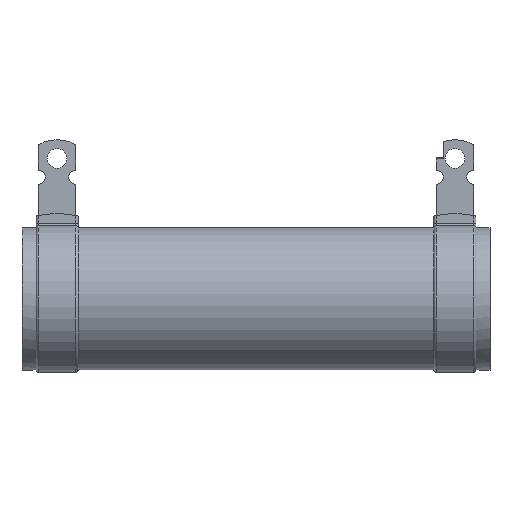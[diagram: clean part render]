
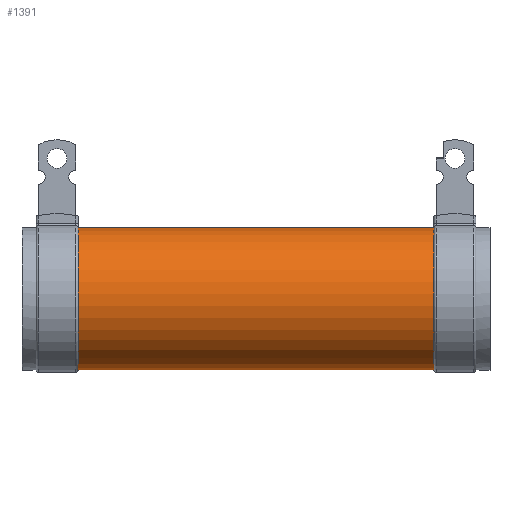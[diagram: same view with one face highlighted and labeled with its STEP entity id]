
A CAD part, left-side view. The second image highlights one B-rep face of the part: STEP entity #1391.
In plain terms, the highlighted cylindrical face has radius 15.25 mm (diameter 30.5 mm), a full revolution.
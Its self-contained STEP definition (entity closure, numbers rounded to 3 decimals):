
#42=FACE_BOUND($,#306,.T.);
#72=CYLINDRICAL_SURFACE($,#1529,15.25);
#133=CIRCLE($,#1514,15.25);
#137=CIRCLE($,#1528,15.25);
#138=CIRCLE($,#1530,15.25);
#139=CIRCLE($,#1531,15.25);
#218=FACE_OUTER_BOUND($,#305,.T.);
#305=EDGE_LOOP($,(#1091,#1092));
#306=EDGE_LOOP($,(#1093,#1094));
#603=VERTEX_POINT($,#2227);
#612=VERTEX_POINT($,#2261);
#619=VERTEX_POINT($,#2320);
#620=VERTEX_POINT($,#2321);
#768=EDGE_CURVE($,#603,#612,#133,.T.);
#784=EDGE_CURVE($,#612,#603,#137,.T.);
#785=EDGE_CURVE($,#619,#620,#138,.T.);
#786=EDGE_CURVE($,#620,#619,#139,.T.);
#1091=ORIENTED_EDGE($,*,*,#785,.T.);
#1092=ORIENTED_EDGE($,*,*,#786,.T.);
#1093=ORIENTED_EDGE($,*,*,#768,.T.);
#1094=ORIENTED_EDGE($,*,*,#784,.T.);
#1391=ADVANCED_FACE($,(#218,#42),#72,.T.);
#1514=AXIS2_PLACEMENT_3D($,#2270,#1834,#1835);
#1528=AXIS2_PLACEMENT_3D($,#2318,#1872,#1873);
#1529=AXIS2_PLACEMENT_3D($,#2319,#1874,#1875);
#1530=AXIS2_PLACEMENT_3D($,#2322,#1876,#1877);
#1531=AXIS2_PLACEMENT_3D($,#2323,#1878,#1879);
#1834=DIRECTION('center_axis',(0.,-1.,0.));
#1835=DIRECTION('ref_axis',(-1.,0.,0.));
#1872=DIRECTION('center_axis',(0.,-1.,0.));
#1873=DIRECTION('ref_axis',(-1.,0.,0.));
#1874=DIRECTION('center_axis',(0.,-1.,0.));
#1875=DIRECTION('ref_axis',(-1.,0.,0.));
#1876=DIRECTION('center_axis',(0.,1.,0.));
#1877=DIRECTION('ref_axis',(-1.,0.,0.));
#1878=DIRECTION('center_axis',(0.,1.,0.));
#1879=DIRECTION('ref_axis',(-1.,0.,0.));
#2227=CARTESIAN_POINT('',(-1.877,88.,15.134));
#2261=CARTESIAN_POINT('',(1.877,88.,15.134));
#2270=CARTESIAN_POINT('Origin',(0.,88.,0.));
#2318=CARTESIAN_POINT('Origin',(0.,88.,0.));
#2319=CARTESIAN_POINT('Origin',(0.,50.,0.));
#2320=CARTESIAN_POINT('',(1.877,12.,15.134));
#2321=CARTESIAN_POINT('',(-1.877,12.,15.134));
#2322=CARTESIAN_POINT('Origin',(0.,12.,0.));
#2323=CARTESIAN_POINT('Origin',(0.,12.,0.));
